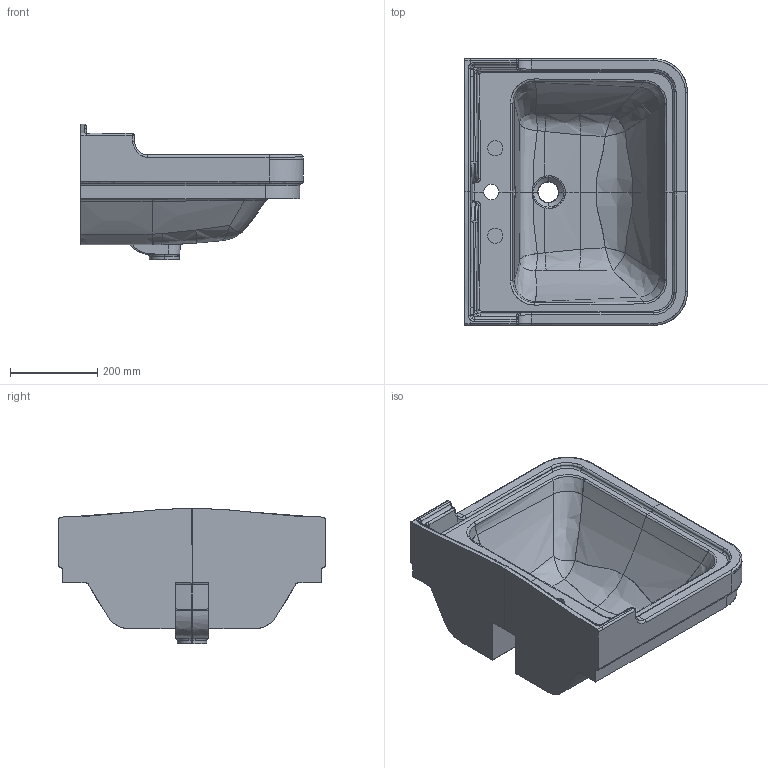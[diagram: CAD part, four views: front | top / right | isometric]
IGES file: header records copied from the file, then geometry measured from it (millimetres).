
Start section: START RECORD GO HERE.
Global section: file name: 8416_3D.igs; native system: DASSAULT SYSTEMES CATIA V5 R19 - www.3ds.com; preprocessor: CATIA Version 5 Release 19 SP 5 ; author: Luca; organization: DESKTOP-V7SON24; date: 20201118.101649; units: millimetre
Bounding box: 510.12 x 609.89 x 309.5 mm (x, y, z)
Surface area: 1227006.5 mm2 (no closed solid volume)
Topology: 0 solids, 0 shells, 380 faces, 1828 edges, 1812 vertices
Faces by surface type: bspline 298, plane 46, revolution 20, extrusion 16
